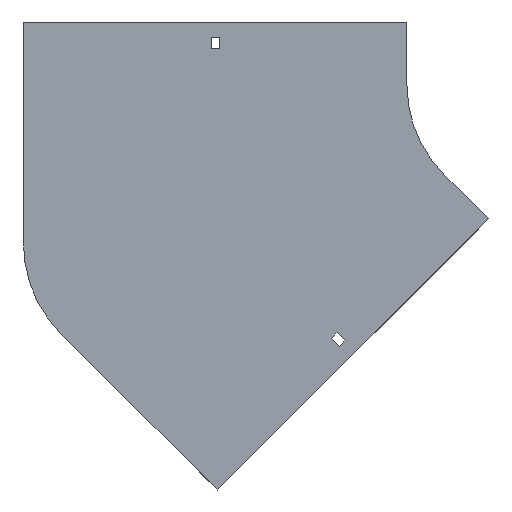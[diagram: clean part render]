
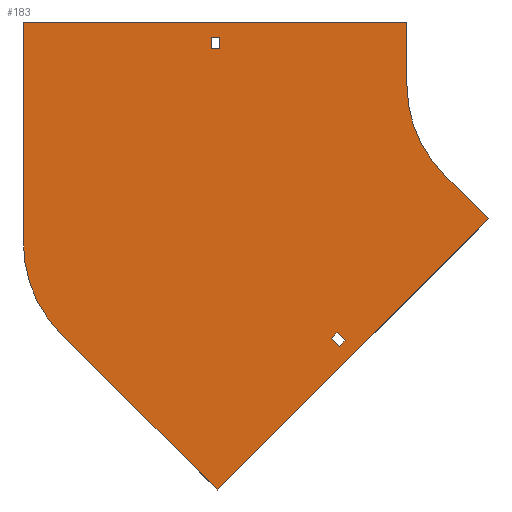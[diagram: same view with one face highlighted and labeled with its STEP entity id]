
A CAD part, front view. The second image highlights one B-rep face of the part: STEP entity #183.
In plain terms, the highlighted planar face has unit normal (0, -1, 0).
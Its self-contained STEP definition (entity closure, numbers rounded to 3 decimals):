
#4 = VERTEX_POINT ( 'NONE', #1006 ) ;
#9 = VECTOR ( 'NONE', #469, 1000. ) ;
#12 = LINE ( 'NONE', #254, #1377 ) ;
#18 = DIRECTION ( 'NONE',  ( 0., 0., -1. ) ) ;
#21 = ORIENTED_EDGE ( 'NONE', *, *, #864, .F. ) ;
#30 = CIRCLE ( 'NONE', #505, 100. ) ;
#35 = CARTESIAN_POINT ( 'NONE',  ( -304., 0., -125.921 ) ) ;
#36 = CARTESIAN_POINT ( 'NONE',  ( -35.355, 0., -106.066 ) ) ;
#37 = VERTEX_POINT ( 'NONE', #706 ) ;
#69 = ORIENTED_EDGE ( 'NONE', *, *, #471, .F. ) ;
#70 = EDGE_CURVE ( 'NONE', #481, #602, #475, .T. ) ;
#78 = VERTEX_POINT ( 'NONE', #36 ) ;
#123 = CARTESIAN_POINT ( 'NONE',  ( -70.711, 0., -70.711 ) ) ;
#134 = FACE_BOUND ( 'NONE', #325, .T. ) ;
#149 = LINE ( 'NONE', #576, #985 ) ;
#162 = CARTESIAN_POINT ( 'NONE',  ( -255.25, 0., 38. ) ) ;
#183 = ADVANCED_FACE ( 'NONE', ( #134, #1100, #771 ), #560, .T. ) ;
#213 = VECTOR ( 'NONE', #266, 1000. ) ;
#222 = VERTEX_POINT ( 'NONE', #1305 ) ;
#232 = LINE ( 'NONE', #244, #300 ) ;
#244 = CARTESIAN_POINT ( 'NONE',  ( -404., 0., -125.921 ) ) ;
#251 = DIRECTION ( 'NONE',  ( -0.707, 0., 0.707 ) ) ;
#254 = CARTESIAN_POINT ( 'NONE',  ( -159.983, 0., -200.995 ) ) ;
#266 = DIRECTION ( 'NONE',  ( -0.707, 0., -0.707 ) ) ;
#268 = EDGE_CURVE ( 'NONE', #781, #1278, #30, .T. ) ;
#276 = EDGE_CURVE ( 'NONE', #342, #37, #892, .T. ) ;
#293 = EDGE_CURVE ( 'NONE', #497, #4, #1129, .T. ) ;
#300 = VECTOR ( 'NONE', #998, 1000. ) ;
#314 = CARTESIAN_POINT ( 'NONE',  ( -250.316, 0., -321.026 ) ) ;
#315 = LINE ( 'NONE', #834, #772 ) ;
#317 = VECTOR ( 'NONE', #346, 1000. ) ;
#325 = EDGE_LOOP ( 'NONE', ( #356, #453, #727, #901 ) ) ;
#334 = DIRECTION ( 'NONE',  ( 0.707, 0., -0.707 ) ) ;
#337 = VERTEX_POINT ( 'NONE', #162 ) ;
#342 = VERTEX_POINT ( 'NONE', #1344 ) ;
#346 = DIRECTION ( 'NONE',  ( -1., 0., 0. ) ) ;
#356 = ORIENTED_EDGE ( 'NONE', *, *, #573, .T. ) ;
#358 = CARTESIAN_POINT ( 'NONE',  ( 0., 0., 0. ) ) ;
#367 = VECTOR ( 'NONE', #931, 1000. ) ;
#414 = DIRECTION ( 'NONE',  ( -0.707, 0., 0.707 ) ) ;
#438 = VECTOR ( 'NONE', #451, 1000. ) ;
#451 = DIRECTION ( 'NONE',  ( 0.707, 0., 0.707 ) ) ;
#453 = ORIENTED_EDGE ( 'NONE', *, *, #1095, .T. ) ;
#468 = ORIENTED_EDGE ( 'NONE', *, *, #293, .F. ) ;
#469 = DIRECTION ( 'NONE',  ( 0., 0., 1. ) ) ;
#471 = EDGE_CURVE ( 'NONE', #1038, #481, #520, .T. ) ;
#475 = LINE ( 'NONE', #1228, #805 ) ;
#481 = VERTEX_POINT ( 'NONE', #623 ) ;
#497 = VERTEX_POINT ( 'NONE', #314 ) ;
#505 = AXIS2_PLACEMENT_3D ( 'NONE', #358, #575, #687 ) ;
#513 = CARTESIAN_POINT ( 'NONE',  ( -149.023, 0., -202.763 ) ) ;
#520 = LINE ( 'NONE', #1401, #1047 ) ;
#528 = DIRECTION ( 'NONE',  ( 0.707, 0., -0.707 ) ) ;
#532 = ORIENTED_EDGE ( 'NONE', *, *, #721, .F. ) ;
#555 = DIRECTION ( 'NONE',  ( 0., -1., 0. ) ) ;
#560 = PLANE ( 'NONE',  #1028 ) ;
#561 = CARTESIAN_POINT ( 'NONE',  ( -153.619, 0., -207.359 ) ) ;
#568 = LINE ( 'NONE', #561, #438 ) ;
#573 = EDGE_CURVE ( 'NONE', #37, #337, #1087, .T. ) ;
#575 = DIRECTION ( 'NONE',  ( 0., -1., 0. ) ) ;
#576 = CARTESIAN_POINT ( 'NONE',  ( -248.75, 0., 29. ) ) ;
#602 = VERTEX_POINT ( 'NONE', #981 ) ;
#623 = CARTESIAN_POINT ( 'NONE',  ( -155.387, 0., -196.399 ) ) ;
#629 = ORIENTED_EDGE ( 'NONE', *, *, #929, .F. ) ;
#636 = VERTEX_POINT ( 'NONE', #1110 ) ;
#646 = CARTESIAN_POINT ( 'NONE',  ( 0., 0., 0. ) ) ;
#650 = EDGE_CURVE ( 'NONE', #1359, #713, #232, .T. ) ;
#663 = ORIENTED_EDGE ( 'NONE', *, *, #650, .F. ) ;
#664 = VECTOR ( 'NONE', #684, 1000. ) ;
#669 = DIRECTION ( 'NONE',  ( 0., 0., -1. ) ) ;
#681 = DIRECTION ( 'NONE',  ( -0.707, 0., -0.707 ) ) ;
#684 = DIRECTION ( 'NONE',  ( 0., 0., -1. ) ) ;
#687 = DIRECTION ( 'NONE',  ( 0., 0., -1. ) ) ;
#692 = CARTESIAN_POINT ( 'NONE',  ( -100., 0., 50. ) ) ;
#704 = EDGE_CURVE ( 'NONE', #895, #781, #911, .T. ) ;
#706 = CARTESIAN_POINT ( 'NONE',  ( -255.25, 0., 29. ) ) ;
#708 = CARTESIAN_POINT ( 'NONE',  ( -404., 0., 50. ) ) ;
#713 = VERTEX_POINT ( 'NONE', #708 ) ;
#718 = LINE ( 'NONE', #1043, #367 ) ;
#721 = EDGE_CURVE ( 'NONE', #713, #895, #1042, .T. ) ;
#727 = ORIENTED_EDGE ( 'NONE', *, *, #769, .T. ) ;
#769 = EDGE_CURVE ( 'NONE', #636, #342, #149, .T. ) ;
#771 = FACE_BOUND ( 'NONE', #1229, .T. ) ;
#772 = VECTOR ( 'NONE', #528, 1000. ) ;
#777 = CARTESIAN_POINT ( 'NONE',  ( -250.316, 0., -321.026 ) ) ;
#781 = VERTEX_POINT ( 'NONE', #1236 ) ;
#805 = VECTOR ( 'NONE', #681, 1000. ) ;
#818 = EDGE_CURVE ( 'NONE', #222, #1038, #568, .T. ) ;
#826 = EDGE_CURVE ( 'NONE', #4, #1359, #1348, .T. ) ;
#834 = CARTESIAN_POINT ( 'NONE',  ( -70.711, 0., -70.711 ) ) ;
#864 = EDGE_CURVE ( 'NONE', #602, #222, #12, .T. ) ;
#892 = LINE ( 'NONE', #1322, #317 ) ;
#894 = DIRECTION ( 'NONE',  ( 0., 0., 1. ) ) ;
#895 = VERTEX_POINT ( 'NONE', #1022 ) ;
#901 = ORIENTED_EDGE ( 'NONE', *, *, #276, .T. ) ;
#911 = LINE ( 'NONE', #692, #664 ) ;
#929 = EDGE_CURVE ( 'NONE', #78, #497, #978, .T. ) ;
#931 = DIRECTION ( 'NONE',  ( 1., 0., 0. ) ) ;
#940 = ORIENTED_EDGE ( 'NONE', *, *, #826, .F. ) ;
#978 = LINE ( 'NONE', #1306, #213 ) ;
#981 = CARTESIAN_POINT ( 'NONE',  ( -159.983, 0., -200.995 ) ) ;
#985 = VECTOR ( 'NONE', #669, 1000. ) ;
#986 = DIRECTION ( 'NONE',  ( 0., 1., 0. ) ) ;
#996 = EDGE_LOOP ( 'NONE', ( #532, #663, #940, #468, #629, #1182, #1400, #1238 ) ) ;
#998 = DIRECTION ( 'NONE',  ( 0., 0., 1. ) ) ;
#1006 = CARTESIAN_POINT ( 'NONE',  ( -374.711, 0., -196.632 ) ) ;
#1022 = CARTESIAN_POINT ( 'NONE',  ( -100., 0., 50. ) ) ;
#1028 = AXIS2_PLACEMENT_3D ( 'NONE', #646, #555, #18 ) ;
#1038 = VERTEX_POINT ( 'NONE', #513 ) ;
#1042 = LINE ( 'NONE', #1342, #1190 ) ;
#1043 = CARTESIAN_POINT ( 'NONE',  ( -255.25, 0., 38. ) ) ;
#1047 = VECTOR ( 'NONE', #414, 1000. ) ;
#1087 = LINE ( 'NONE', #1318, #9 ) ;
#1095 = EDGE_CURVE ( 'NONE', #337, #636, #718, .T. ) ;
#1099 = AXIS2_PLACEMENT_3D ( 'NONE', #35, #986, #894 ) ;
#1100 = FACE_OUTER_BOUND ( 'NONE', #996, .T. ) ;
#1109 = ORIENTED_EDGE ( 'NONE', *, *, #70, .F. ) ;
#1110 = CARTESIAN_POINT ( 'NONE',  ( -248.75, 0., 38. ) ) ;
#1129 = LINE ( 'NONE', #777, #1319 ) ;
#1182 = ORIENTED_EDGE ( 'NONE', *, *, #1186, .F. ) ;
#1186 = EDGE_CURVE ( 'NONE', #1278, #78, #315, .T. ) ;
#1190 = VECTOR ( 'NONE', #1367, 1000. ) ;
#1228 = CARTESIAN_POINT ( 'NONE',  ( -159.983, 0., -200.995 ) ) ;
#1229 = EDGE_LOOP ( 'NONE', ( #1264, #21, #1109, #69 ) ) ;
#1236 = CARTESIAN_POINT ( 'NONE',  ( -100., 0., 0. ) ) ;
#1238 = ORIENTED_EDGE ( 'NONE', *, *, #704, .F. ) ;
#1264 = ORIENTED_EDGE ( 'NONE', *, *, #818, .F. ) ;
#1278 = VERTEX_POINT ( 'NONE', #123 ) ;
#1284 = CARTESIAN_POINT ( 'NONE',  ( -404., 0., -125.921 ) ) ;
#1305 = CARTESIAN_POINT ( 'NONE',  ( -153.619, 0., -207.359 ) ) ;
#1306 = CARTESIAN_POINT ( 'NONE',  ( -35.355, 0., -106.066 ) ) ;
#1318 = CARTESIAN_POINT ( 'NONE',  ( -255.25, 0., 29. ) ) ;
#1319 = VECTOR ( 'NONE', #251, 1000. ) ;
#1322 = CARTESIAN_POINT ( 'NONE',  ( -255.25, 0., 29. ) ) ;
#1342 = CARTESIAN_POINT ( 'NONE',  ( -404., 0., 50. ) ) ;
#1344 = CARTESIAN_POINT ( 'NONE',  ( -248.75, 0., 29. ) ) ;
#1348 = CIRCLE ( 'NONE', #1099, 100. ) ;
#1359 = VERTEX_POINT ( 'NONE', #1284 ) ;
#1367 = DIRECTION ( 'NONE',  ( 1., 0., 0. ) ) ;
#1377 = VECTOR ( 'NONE', #334, 1000. ) ;
#1400 = ORIENTED_EDGE ( 'NONE', *, *, #268, .F. ) ;
#1401 = CARTESIAN_POINT ( 'NONE',  ( -155.387, 0., -196.399 ) ) ;
